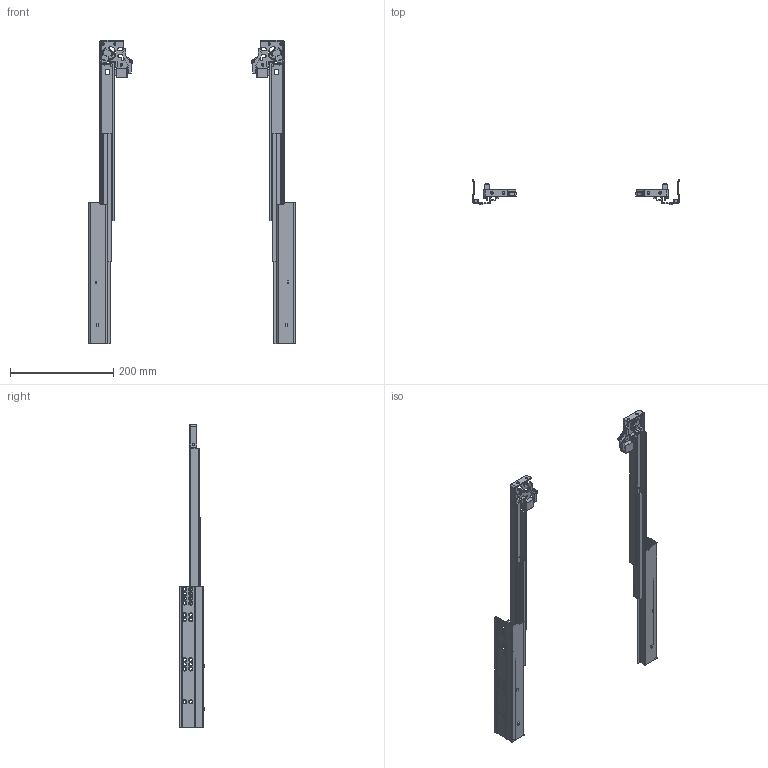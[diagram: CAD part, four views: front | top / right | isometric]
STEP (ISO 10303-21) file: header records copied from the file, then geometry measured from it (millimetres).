
FILE_DESCRIPTION(/* description */ (''),/* implementation_level */ '2;1');
FILE_NAME(/* name */ 'D:\$Workingspace\Designs\Katalog\Cadsoft\GTV Prowadnice\Prowadnice GTV_bryły 3D\PB-0FPO-350_wysunieta.stp',/* time_stamp */ '2016-11-21T14:06:28+01:00',/* author */ ('tomaszw'),/* organization */ (''),/* preprocessor_version */ 'ST-DEVELOPER v16.1',/* originating_system */ 'Autodesk Inventor 2016',/* authorisation */ '');
FILE_SCHEMA (('AUTOMOTIVE_DESIGN { 1 0 10303 214 3 1 1 }'));
Length unit declared in the file: millimetre
Products named in the file (9): PB-0FPO-CL-350; PB-0FPO-CR-350; PB-0FPO-DL-350; PB-0FPO-DR-350; PB-0FPO-DWL-350; PB-0FPO-DWR-350; PB-0FPO-SL; PB-0FPO-SR; PB-0FPO
Assembly tree (8 placements, depth 2):
  PB-0FPO
    PB-0FPO-CL-350
    PB-0FPO-CR-350
    PB-0FPO-DL-350
    PB-0FPO-DR-350
    PB-0FPO-DWL-350
    PB-0FPO-DWR-350
    PB-0FPO-SL
    PB-0FPO-SR
Bounding box: 400 x 48.8 x 589 mm (x, y, z)
Volume: 237485.1 mm3; surface area: 283716.4 mm2
Topology: 16 solids, 16 shells, 1866 faces, 4302 edges, 2474 vertices
Faces by surface type: cylinder 786, plane 440, torus 366, sphere 198, cone 40, bspline 36
Full cylindrical faces by diameter (mm): 3 x2, 4 x6, 4.5 x6, 5 x2, 6 x40, 7.889 x2
Entity records: 55865 total; most frequent: CARTESIAN_POINT 11079, DIRECTION 9896, ORIENTED_EDGE 8248, EDGE_CURVE 4124, AXIS2_PLACEMENT_3D 3993, VERTEX_POINT 2428, CIRCLE 2134, EDGE_LOOP 2132
